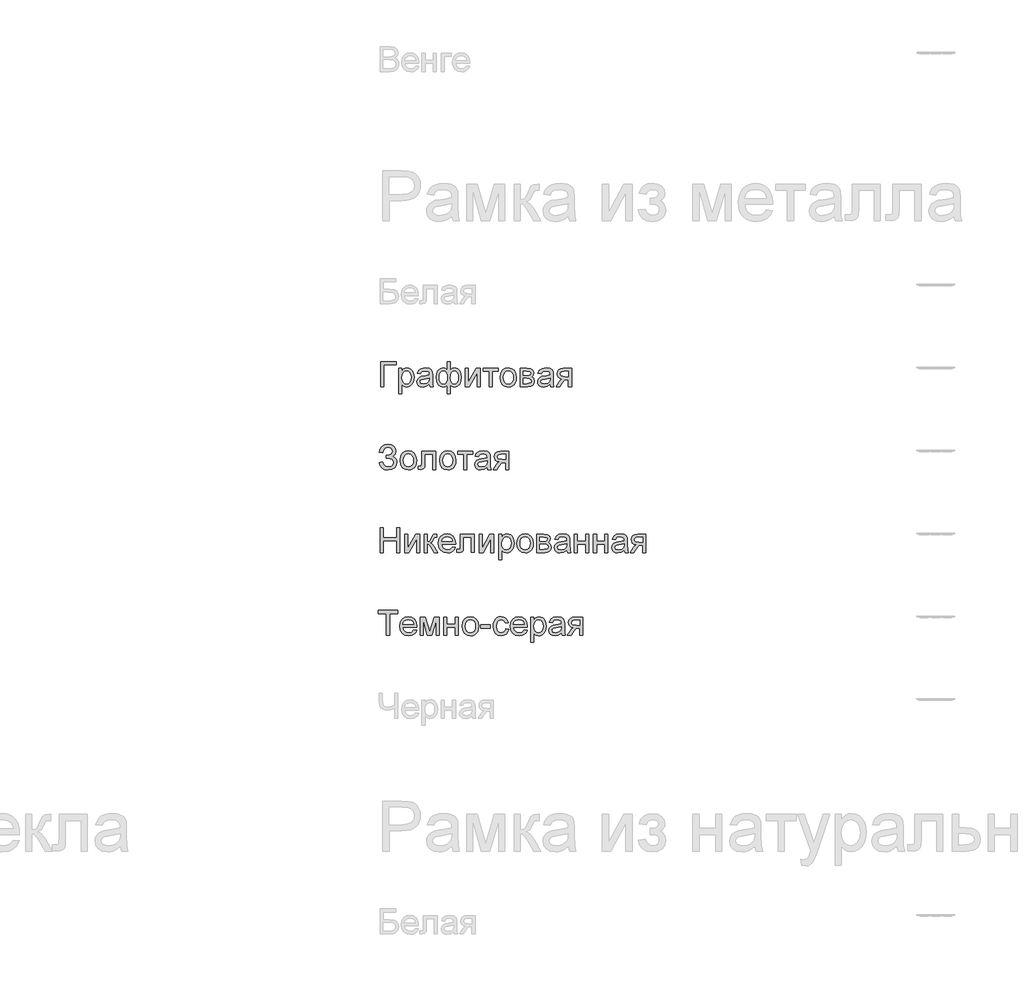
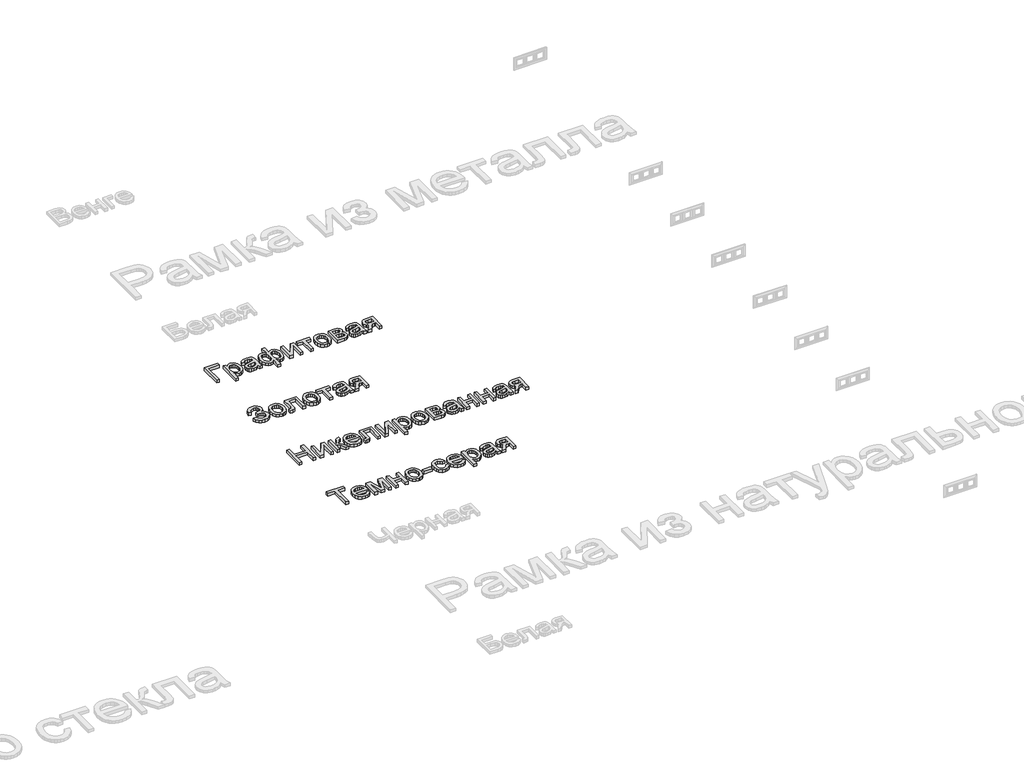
# One storey, part 121 of 168: 4 proxies.
"""IFC4 building model written with IfcOpenShell, lengths in millimetres."""

from ifc_helpers import new_model, si_unit, origin, origin_with_axes, place, context, project, spatial, polyline, outline, extrude, element, save

model = new_model("IFC4")

# Units and contexts
model_context = context("Model", 3, world=origin())
ifc_project = project(units=[si_unit("LENGTHUNIT", "METRE", prefix="MILLI")], contexts=[model_context])

# Site, building, storey
site = spatial("IfcSite", under=ifc_project)
building = spatial("IfcBuilding", under=site)
storey = spatial("IfcBuildingStorey", under=building, Name="Этаж 01", Elevation=0.0)

# Proxies
placement = place(None, origin())
element("IfcBuildingElementProxy", 1, Name="150", ObjectType="150", at=placement, inside=storey, context=model_context, shape_type="SweptSolid", body=[
    extrude(outline(polyline([(47684.967833, -13397.7212163), (47779.1456238, -13397.7212163), (47779.1456238, -13416.5567745), (47703.8033912, -13416.5567745), (47703.8033912, -13548.4056816), (47684.967833, -13548.4056816), (47684.967833, -13397.7212163)])), origin_with_axes(), (0.0, 0.0, 1.0), 20.0),
    extrude(outline(polyline([(47793.2722924, -13590.7856874), (47793.2722924, -13437.7467774), (47812.1078506, -13437.7467774), (47812.1078506, -13456.2144536), (47825.1308732, -13440.5978629), (47842.7156326, -13435.3923327), (47855.4535467, -13437.2133485), (47866.5911741, -13442.6763962), (47875.6594652, -13451.4503817), (47882.1893707, -13463.2042115), (47887.4500832, -13492.2301009), (47885.9647596, -13508.3387338), (47881.508789, -13522.7459124), (47874.2247255, -13534.7204713), (47864.2551234, -13543.5312451), (47852.6438479, -13548.952906), (47840.4347642, -13550.7601263), (47824.0456213, -13545.9224781), (47812.1078506, -13533.6904018), (47812.1078506, -13590.7856874), (47793.2722924, -13590.7856874)]), holes=[polyline([(47812.1078506, -13493.9591463), (47814.1449971, -13510.8449299), (47820.2564368, -13522.6539419), (47829.2741442, -13529.6069116), (47840.030094, -13531.9245682), (47850.9607878, -13529.5241382), (47860.2084214, -13522.3228481), (47866.5129991, -13510.0815747), (47868.614525, -13492.5611947), (47866.5635829, -13475.7673816), (47860.4107565, -13463.7928227), (47851.4068447, -13456.6191238), (47840.8026462, -13454.2278908), (47830.157061, -13456.7708751), (47820.8082598, -13464.399828), (47814.2829529, -13476.8756261), (47812.1078506, -13493.9591463)])]), origin_with_axes(), (0.0, 0.0, 1.0), 20.0),
    extrude(outline(polyline([(47979.2734292, -13534.279013), (47961.0080881, -13547.0445182), (47940.8297607, -13550.7601263), (47925.0890098, -13548.5252432), (47913.4777343, -13541.8205939), (47906.317831, -13531.6394596), (47903.9311966, -13518.975122), (47907.5364401, -13504.0759012), (47917.0094015, -13493.2601705), (47930.197971, -13487.079753), (47946.4951434, -13484.2470616), (47979.1630646, -13477.7723385), (47979.2734292, -13473.5784838), (47977.9766452, -13465.1723802), (47974.0862931, -13459.6725443), (47965.3858839, -13455.5890542), (47953.2641721, -13454.2278908), (47934.2078848, -13457.8515285), (47925.1211995, -13470.7090042), (47906.2856413, -13468.3545594), (47914.4342275, -13449.9604597), (47930.8417645, -13439.1815172), (47955.6921933, -13435.3923327), (47978.5192711, -13438.7400588), (47991.413535, -13447.1461624), (47997.1892823, -13459.9300617), (47998.1089873, -13476.4111751), (47998.1089873, -13499.8452582), (47999.0654805, -13532.5683617), (48002.8178769, -13548.4056816), (47983.9823187, -13548.4056816), (47979.2734292, -13534.279013)]), holes=[polyline([(47979.2734292, -13496.6078966), (47948.8863764, -13502.383644), (47932.6811745, -13505.4370645), (47925.3419287, -13510.4034715), (47922.7667547, -13517.6507468), (47928.3769552, -13527.841078), (47944.8396744, -13531.9245682), (47963.8959618, -13527.4180137), (47976.1832204, -13516.5103126), (47979.1630646, -13501.9421856), (47979.2734292, -13496.6078966)])]), origin_with_axes(), (0.0, 0.0, 1.0), 20.0),
    extrude(outline(polyline([(48087.5778886, -13397.7212163), (48106.4134467, -13397.7212163), (48106.4134467, -13448.3785671), (48118.3880057, -13438.6113001), (48132.4227038, -13435.3923327), (48148.9084157, -13439.4850198), (48161.5773519, -13451.7630814), (48169.6477632, -13470.2491517), (48172.3379003, -13492.9658649), (48169.4408295, -13516.3769554), (48160.7496174, -13534.8124418), (48147.7541859, -13546.7732052), (48131.9444572, -13550.7601263), (48120.4297507, -13548.9207164), (48106.4134467, -13538.8775379), (48106.4134467, -13590.7856874), (48087.5778886, -13590.7856874), (48087.5778886, -13538.8775379), (48075.5481473, -13547.7802822), (48061.3111141, -13550.7601263), (48045.5289765, -13546.9525477), (48031.8805545, -13535.5298117), (48022.4443813, -13517.0161503), (48019.2989903, -13491.9357953), (48022.1454772, -13469.8536785), (48030.684938, -13451.6527168), (48044.0344559, -13439.4574287), (48061.3111141, -13435.3923327), (48075.8976352, -13438.6113001), (48087.5778886, -13448.3785671), (48087.5778886, -13397.7212163)]), holes=[polyline([(48038.1345484, -13491.5311251), (48040.0199436, -13510.0079983), (48045.6761293, -13522.4700009), (48054.1282182, -13529.5609264), (48064.4013229, -13531.9245682), (48074.6238438, -13529.5747219), (48081.8941117, -13522.5251832), (48086.2397178, -13510.775952), (48087.6882532, -13494.3270283), (48086.1661414, -13476.7836556), (48081.5998061, -13464.2526752), (48073.9616562, -13456.7340869), (48063.2241005, -13454.2278908), (48053.1441338, -13456.6743061), (48045.1243063, -13464.0135519), (48039.8819879, -13475.7857757), (48038.1345484, -13491.5311251)]), polyline([(48106.3030821, -13493.4073233), (48107.8711791, -13512.4774062), (48112.5754701, -13524.0702876), (48119.643403, -13529.960998), (48128.3024254, -13531.9245682), (48137.9823204, -13529.5103426), (48146.1263081, -13522.2676658), (48151.6583336, -13509.9390204), (48153.5023421, -13492.2668891), (48151.8008879, -13475.5098642), (48146.6965252, -13463.6456699), (48138.925018, -13456.5823356), (48129.2221304, -13454.2278908), (48119.2295357, -13456.6789046), (48112.0604353, -13464.031946), (48107.7424204, -13476.2778179), (48106.3030821, -13493.4073233)])]), origin_with_axes(), (0.0, 0.0, 1.0), 20.0),
    extrude(outline(polyline([(48195.8823479, -13437.7467774), (48214.7179061, -13437.7467774), (48214.7179061, -13522.1389071), (48260.9974611, -13437.7467774), (48285.3512492, -13437.7467774), (48285.3512492, -13548.4056816), (48266.515691, -13548.4056816), (48266.515691, -13464.5285867), (48220.5304416, -13548.4056816), (48195.8823479, -13548.4056816), (48195.8823479, -13437.7467774)])), origin_with_axes(), (0.0, 0.0, 1.0), 20.0),
    extrude(outline(polyline([(48304.1868073, -13437.7467774), (48393.6557086, -13437.7467774), (48393.6557086, -13456.5823356), (48358.339037, -13456.5823356), (48358.339037, -13548.4056816), (48339.5034789, -13548.4056816), (48339.5034789, -13456.5823356), (48304.1868073, -13456.5823356), (48304.1868073, -13437.7467774)])), origin_with_axes(), (0.0, 0.0, 1.0), 20.0),
    extrude(outline(polyline([(48405.4279324, -13493.0762295), (48409.5022255, -13466.3955878), (48421.7251048, -13447.6428031), (48436.8266607, -13438.4549503), (48454.9080607, -13435.3923327), (48474.6955136, -13439.1217364), (48490.5006438, -13450.3099476), (48500.8611205, -13468.0740494), (48504.3146127, -13491.5311251), (48502.7879024, -13510.5598213), (48498.2077716, -13525.0451749), (48490.7075774, -13535.8930952), (48480.4206771, -13544.0094917), (48468.2023963, -13549.0724677), (48454.9080607, -13550.7601263), (48434.8814846, -13547.0445182), (48419.0947485, -13535.8976937), (48408.8446364, -13517.7611114), (48405.4279324, -13493.0762295)]), holes=[polyline([(48424.2634906, -13493.0394413), (48426.4431914, -13510.0861732), (48432.9822938, -13522.2308776), (48442.8231372, -13529.5011455), (48454.9080607, -13531.9245682), (48466.937802, -13529.48735), (48476.7602513, -13522.1756953), (48483.2993537, -13509.8700426), (48485.4790545, -13492.4508301), (48483.2855582, -13475.9007388), (48476.705069, -13463.9215814), (48466.8688241, -13456.6513134), (48454.9080607, -13454.2278908), (48442.8231372, -13456.6421164), (48432.9822938, -13463.8847932), (48426.4431914, -13476.0019064), (48424.2634906, -13493.0394413)])]), origin_with_axes(), (0.0, 0.0, 1.0), 20.0),
    extrude(outline(polyline([(48525.5046156, -13437.7467774), (48567.0017047, -13437.7467774), (48589.7552061, -13440.2667691), (48602.5574995, -13449.5006072), (48607.9101825, -13465.5954445), (48604.672821, -13478.6736494), (48594.9239481, -13487.999458), (48607.5790887, -13498.2081833), (48612.6190721, -13515.9584896), (48609.4276958, -13530.3150845), (48601.8401296, -13540.4226423), (48589.8287825, -13546.4099217), (48573.3660632, -13548.4056816), (48525.5046156, -13548.4056816), (48525.5046156, -13437.7467774)]), holes=[polyline([(48544.3401738, -13480.1267833), (48562.9550027, -13480.1267833), (48578.314076, -13479.1702901), (48585.7820805, -13475.3443173), (48589.0746244, -13468.4281358), (48587.6306876, -13462.8087383), (48583.2988771, -13459.1942977), (48563.5436139, -13456.5823356), (48544.3401738, -13456.5823356), (48544.3401738, -13480.1267833)]), polyline([(48544.3401738, -13529.5701234), (48567.4431631, -13529.5701234), (48587.9341902, -13526.167215), (48592.1740302, -13521.5273033), (48593.7835139, -13514.4133852), (48590.5645465, -13505.345094), (48582.176837, -13500.0659874), (48565.6037531, -13498.9623414), (48544.3401738, -13498.9623414), (48544.3401738, -13529.5701234)])]), origin_with_axes(), (0.0, 0.0, 1.0), 20.0),
    extrude(outline(polyline([(48706.7968628, -13534.279013), (48688.5315218, -13547.0445182), (48668.3531944, -13550.7601263), (48652.6124435, -13548.5252432), (48641.001168, -13541.8205939), (48633.8412647, -13531.6394596), (48631.4546302, -13518.975122), (48635.0598738, -13504.0759012), (48644.5328352, -13493.2601705), (48657.7214047, -13487.079753), (48674.0185771, -13484.2470616), (48706.6864982, -13477.7723385), (48706.7968628, -13473.5784838), (48705.5000788, -13465.1723802), (48701.6097267, -13459.6725443), (48692.9093175, -13455.5890542), (48680.7876058, -13454.2278908), (48661.7313184, -13457.8515285), (48652.6446332, -13470.7090042), (48633.809075, -13468.3545594), (48641.9576612, -13449.9604597), (48658.3651982, -13439.1815172), (48683.215627, -13435.3923327), (48706.0427048, -13438.7400588), (48718.9369687, -13447.1461624), (48724.712716, -13459.9300617), (48725.632421, -13476.4111751), (48725.632421, -13499.8452582), (48726.5889142, -13532.5683617), (48730.3413105, -13548.4056816), (48711.5057524, -13548.4056816), (48706.7968628, -13534.279013)]), holes=[polyline([(48706.7968628, -13496.6078966), (48676.40981, -13502.383644), (48660.2046082, -13505.4370645), (48652.8653624, -13510.4034715), (48650.2901884, -13517.6507468), (48655.9003888, -13527.841078), (48672.3631081, -13531.9245682), (48691.4193954, -13527.4180137), (48703.7066541, -13516.5103126), (48706.6864982, -13501.9421856), (48706.7968628, -13496.6078966)])]), origin_with_axes(), (0.0, 0.0, 1.0), 20.0),
    extrude(outline(polyline([(48836.2913251, -13437.7467774), (48836.2913251, -13548.4056816), (48817.455767, -13548.4056816), (48817.455767, -13506.0256757), (48807.1918593, -13506.0256757), (48793.2123435, -13508.4169087), (48780.0789563, -13524.4933519), (48765.0693709, -13548.4056816), (48743.2907568, -13548.4056816), (48762.1998913, -13518.1657816), (48770.5508126, -13507.3132627), (48778.2395463, -13502.4940086), (48765.3636765, -13498.5484742), (48756.3137794, -13491.0528785), (48750.9610964, -13481.0832765), (48749.1768687, -13469.7157228), (48751.6140869, -13456.8214589), (48758.9257416, -13446.6127335), (48770.8543153, -13439.9632664), (48787.1422906, -13437.7467774), (48836.2913251, -13437.7467774)]), holes=[polyline([(48817.455767, -13456.5823356), (48792.6237323, -13456.5823356), (48779.7984463, -13457.672186), (48772.5189813, -13460.9417372), (48768.0124268, -13471.1504626), (48769.6724943, -13478.32876), (48774.6526969, -13483.3089625), (48798.1787504, -13487.1901176), (48817.455767, -13487.1901176), (48817.455767, -13456.5823356)])]), origin_with_axes(), (0.0, 0.0, 1.0), 20.0),
])
element("IfcBuildingElementProxy", 2, Name="150", ObjectType="150", at=placement, inside=storey, context=model_context, shape_type="SweptSolid", body=[
    extrude(outline(polyline([(47675.550054, -14006.0256757), (47694.3856121, -14001.3167862), (47705.9555009, -14021.7158428), (47716.8861946, -14029.3723868), (47730.879506, -14031.9245682), (47745.0567584, -14030.0069833), (47755.8770876, -14024.2542286), (47762.7334883, -14015.7883442), (47765.0189552, -14005.7313701), (47762.5219562, -13995.1961495), (47755.030959, -13987.0613589), (47743.2357426, -13981.8604272), (47727.8260855, -13980.1267833), (47717.9300598, -13980.1267833), (47717.9300598, -13961.2912251), (47739.2488214, -13959.7645148), (47752.2902382, -13951.9654165), (47757.9556209, -13937.7099892), (47756.0702257, -13928.8394346), (47750.41404, -13921.2104817), (47741.5388869, -13915.9543677), (47729.9965893, -13914.2023297), (47710.774755, -13919.591801), (47699.7750833, -13933.8840165), (47696.7400569, -13947.1645565), (47677.9044987, -13942.455667), (47683.7561217, -13921.8542752), (47694.358021, -13907.1389954), (47709.7101965, -13898.3098275), (47729.8126483, -13895.3667716), (47749.2046279, -13898.4247907), (47764.1176443, -13907.5988479), (47773.6227954, -13920.8655924), (47776.791179, -13936.201673), (47771.8615603, -13954.8440931), (47757.0727041, -13968.7592296), (47767.5481439, -13973.5830823), (47776.1657796, -13981.7270699), (47781.9323299, -13992.4922168), (47783.8545133, -14005.1795471), (47780.1664963, -14023.0172254), (47769.1024453, -14037.6819214), (47751.9499473, -14047.4905751), (47729.9965893, -14050.7601263), (47710.8943167, -14047.9642232), (47695.4524699, -14039.5765137), (47683.671049, -14025.5969979), (47675.550054, -14006.0256757)])), origin_with_axes(), (0.0, 0.0, 1.0), 20.0),
    extrude(outline(polyline([(47802.6900715, -13993.0762295), (47806.7643646, -13966.3955878), (47818.9872439, -13947.6428031), (47834.0887998, -13938.4549503), (47852.1701999, -13935.3923327), (47871.9576527, -13939.1217364), (47887.7627829, -13950.3099476), (47898.1232596, -13968.0740494), (47901.5767518, -13991.5311251), (47900.0500415, -14010.5598213), (47895.4699107, -14025.0451749), (47887.9697165, -14035.8930952), (47877.6828162, -14044.0094917), (47865.4645355, -14049.0724677), (47852.1701999, -14050.7601263), (47832.1436237, -14047.0445182), (47816.3568876, -14035.8976937), (47806.1067755, -14017.7611114), (47802.6900715, -13993.0762295)]), holes=[polyline([(47821.5256297, -13993.0394413), (47823.7053305, -14010.0861732), (47830.2444329, -14022.2308776), (47840.0852763, -14029.5011455), (47852.1701999, -14031.9245682), (47864.1999411, -14029.48735), (47874.0223904, -14022.1756953), (47880.5614928, -14009.8700426), (47882.7411937, -13992.4508301), (47880.5476973, -13975.9007388), (47873.9672081, -13963.9215814), (47864.1309632, -13956.6513134), (47852.1701999, -13954.2278908), (47840.0852763, -13956.6421164), (47830.2444329, -13963.8847932), (47823.7053305, -13976.0019064), (47821.5256297, -13993.0394413)])]), origin_with_axes(), (0.0, 0.0, 1.0), 20.0),
    extrude(outline(polyline([(47932.1845338, -13937.7467774), (48016.9445455, -13937.7467774), (48016.9445455, -14048.295317), (47998.1089873, -14048.295317), (47998.1089873, -13956.5823356), (47951.020092, -13956.5823356), (47951.020092, -14009.3734019), (47949.7508991, -14033.72719), (47942.7795353, -14044.0094917), (47926.2984219, -14048.4056816), (47910.9945309, -14047.4491884), (47910.9945309, -14029.5701234), (47919.4190286, -14029.5701234), (47927.9354968, -14028.4112951), (47931.3384052, -14024.7324752), (47932.1845338, -14008.3065441), (47932.1845338, -13937.7467774)])), origin_with_axes(), (0.0, 0.0, 1.0), 20.0),
    extrude(outline(polyline([(48040.4889932, -13993.0762295), (48044.5632863, -13966.3955878), (48056.7861656, -13947.6428031), (48071.8877215, -13938.4549503), (48089.9691215, -13935.3923327), (48109.7565743, -13939.1217364), (48125.5617046, -13950.3099476), (48135.9221813, -13968.0740494), (48139.3756735, -13991.5311251), (48137.8489632, -14010.5598213), (48133.2688324, -14025.0451749), (48125.7686382, -14035.8930952), (48115.4817379, -14044.0094917), (48103.2634571, -14049.0724677), (48089.9691215, -14050.7601263), (48069.9425454, -14047.0445182), (48054.1558093, -14035.8976937), (48043.9056972, -14017.7611114), (48040.4889932, -13993.0762295)]), holes=[polyline([(48059.3245513, -13993.0394413), (48061.5042522, -14010.0861732), (48068.0433546, -14022.2308776), (48077.884198, -14029.5011455), (48089.9691215, -14031.9245682), (48101.9988628, -14029.48735), (48111.821312, -14022.1756953), (48118.3604145, -14009.8700426), (48120.5401153, -13992.4508301), (48118.3466189, -13975.9007388), (48111.7661297, -13963.9215814), (48101.9298849, -13956.6513134), (48089.9691215, -13954.2278908), (48077.884198, -13956.6421164), (48068.0433546, -13963.8847932), (48061.5042522, -13976.0019064), (48059.3245513, -13993.0394413)])]), origin_with_axes(), (0.0, 0.0, 1.0), 20.0),
    extrude(outline(polyline([(48151.1478973, -13937.7467774), (48240.6167986, -13937.7467774), (48240.6167986, -13956.5823356), (48205.300127, -13956.5823356), (48205.300127, -14048.4056816), (48186.4645689, -14048.4056816), (48186.4645689, -13956.5823356), (48151.1478973, -13956.5823356), (48151.1478973, -13937.7467774)])), origin_with_axes(), (0.0, 0.0, 1.0), 20.0),
    extrude(outline(polyline([(48327.731255, -14034.279013), (48309.465914, -14047.0445182), (48289.2875865, -14050.7601263), (48273.5468357, -14048.5252432), (48261.9355602, -14041.8205939), (48254.7756568, -14031.6394596), (48252.3890224, -14018.975122), (48255.994266, -14004.0759012), (48265.4672273, -13993.2601705), (48278.6557969, -13987.079753), (48294.9529692, -13984.2470616), (48327.6208904, -13977.7723385), (48327.731255, -13973.5784838), (48326.434471, -13965.1723802), (48322.5441189, -13959.6725443), (48313.8437097, -13955.5890542), (48301.721998, -13954.2278908), (48282.6657106, -13957.8515285), (48273.5790253, -13970.7090042), (48254.7434672, -13968.3545594), (48262.8920534, -13949.9604597), (48279.2995904, -13939.1815172), (48304.1500191, -13935.3923327), (48326.9770969, -13938.7400588), (48339.8713609, -13947.1461624), (48345.6471082, -13959.9300617), (48346.5668132, -13976.4111751), (48346.5668132, -13999.8452582), (48347.5233064, -14032.5683617), (48351.2757027, -14048.4056816), (48332.4401446, -14048.4056816), (48327.731255, -14034.279013)]), holes=[polyline([(48327.731255, -13996.6078966), (48297.3442022, -14002.383644), (48281.1390003, -14005.4370645), (48273.7997545, -14010.4034715), (48271.2245806, -14017.6507468), (48276.834781, -14027.841078), (48293.2975003, -14031.9245682), (48312.3537876, -14027.4180137), (48324.6410463, -14016.5103126), (48327.6208904, -14001.9421856), (48327.731255, -13996.6078966)])]), origin_with_axes(), (0.0, 0.0, 1.0), 20.0),
    extrude(outline(polyline([(48457.2257173, -13937.7467774), (48457.2257173, -14048.4056816), (48438.3901592, -14048.4056816), (48438.3901592, -14006.0256757), (48428.1262515, -14006.0256757), (48414.1467357, -14008.4169087), (48401.0133485, -14024.4933519), (48386.0037631, -14048.4056816), (48364.2251489, -14048.4056816), (48383.1342835, -14018.1657816), (48391.4852048, -14007.3132627), (48399.1739385, -14002.4940086), (48386.2980686, -13998.5484742), (48377.2481716, -13991.0528785), (48371.8954885, -13981.0832765), (48370.1112609, -13969.7157228), (48372.5484791, -13956.8214589), (48379.8601337, -13946.6127335), (48391.7887074, -13939.9632664), (48408.0766828, -13937.7467774), (48457.2257173, -13937.7467774)]), holes=[polyline([(48438.3901592, -13956.5823356), (48413.5581245, -13956.5823356), (48400.7328384, -13957.672186), (48393.4533735, -13960.9417372), (48388.946819, -13971.1504626), (48390.6068865, -13978.32876), (48395.587089, -13983.3089625), (48419.1131426, -13987.1901176), (48438.3901592, -13987.1901176), (48438.3901592, -13956.5823356)])]), origin_with_axes(), (0.0, 0.0, 1.0), 20.0),
])
element("IfcBuildingElementProxy", 3, Name="150", ObjectType="150", at=placement, inside=storey, context=model_context, shape_type="SweptSolid", body=[
    extrude(outline(polyline([(47682.6133883, -14548.4056816), (47682.6133883, -14397.7212163), (47701.4489464, -14397.7212163), (47701.4489464, -14458.9367803), (47781.5000686, -14458.9367803), (47781.5000686, -14397.7212163), (47800.3356267, -14397.7212163), (47800.3356267, -14548.4056816), (47781.5000686, -14548.4056816), (47781.5000686, -14477.7723385), (47701.4489464, -14477.7723385), (47701.4489464, -14548.4056816), (47682.6133883, -14548.4056816)])), origin_with_axes(), (0.0, 0.0, 1.0), 20.0),
    extrude(outline(polyline([(47830.9434087, -14437.7467774), (47849.7789669, -14437.7467774), (47849.7789669, -14522.1389071), (47896.0585219, -14437.7467774), (47920.41231, -14437.7467774), (47920.41231, -14548.4056816), (47901.5767518, -14548.4056816), (47901.5767518, -14464.5285867), (47855.5915024, -14548.4056816), (47830.9434087, -14548.4056816), (47830.9434087, -14437.7467774)])), origin_with_axes(), (0.0, 0.0, 1.0), 20.0),
    extrude(outline(polyline([(47948.6656472, -14437.7467774), (47967.5012053, -14437.7467774), (47967.5012053, -14484.8356728), (47980.1195578, -14481.4511584), (47990.4570418, -14461.7326835), (47999.0470864, -14444.7181412), (48006.6254555, -14439.1815172), (48020.4026362, -14437.7467774), (48024.0078798, -14437.7467774), (48024.0078798, -14456.6927002), (48018.9311083, -14456.5823356), (48009.7340584, -14458.5688983), (48003.2593353, -14470.9665216), (47995.6625721, -14484.3758203), (47985.0123883, -14490.9425139), (47996.8949768, -14498.2725627), (48008.556836, -14513.7144094), (48028.7167693, -14548.4056816), (48007.3060372, -14548.4056816), (47987.5507741, -14514.4501734), (47977.6179602, -14500.0843815), (47967.5012053, -14496.6078966), (47967.5012053, -14548.4056816), (47948.6656472, -14548.4056816), (47948.6656472, -14437.7467774)])), origin_with_axes(), (0.0, 0.0, 1.0), 20.0),
    extrude(outline(polyline([(48117.9649414, -14515.4434548), (48136.4326175, -14517.7978996), (48129.7785519, -14531.713036), (48119.1605579, -14542.1148995), (48104.8177586, -14548.5988196), (48086.9892774, -14550.7601263), (48064.8887665, -14547.0307226), (48047.8834213, -14535.8425114), (48037.0400995, -14517.9220597), (48033.4256589, -14493.9959345), (48037.0768877, -14469.2650674), (48048.0305741, -14450.7698), (48064.8059931, -14439.2366995), (48085.9224196, -14435.3923327), (48106.381257, -14439.2275025), (48122.7290132, -14450.7330118), (48133.4481748, -14469.191491), (48137.0212287, -14493.8855699), (48136.9108641, -14498.9623414), (48052.261217, -14498.9623414), (48055.5215712, -14513.0614189), (48063.0953418, -14523.4264941), (48074.0260356, -14529.8000497), (48087.3571594, -14531.9245682), (48105.8248355, -14527.9882308), (48117.9649414, -14515.4434548)]), holes=[polyline([(48052.261217, -14480.1267833), (48118.1856706, -14480.1267833), (48115.6380877, -14470.1755753), (48110.6440897, -14463.0570587), (48099.6628121, -14456.4351828), (48085.8488432, -14454.2278908), (48073.1523158, -14455.9891259), (48062.6538834, -14461.272831), (48055.3560243, -14469.5087892), (48052.261217, -14480.1267833)])]), origin_with_axes(), (0.0, 0.0, 1.0), 20.0),
    extrude(outline(polyline([(48165.2745659, -14437.7467774), (48250.0345776, -14437.7467774), (48250.0345776, -14548.295317), (48231.1990195, -14548.295317), (48231.1990195, -14456.5823356), (48184.1101241, -14456.5823356), (48184.1101241, -14509.3734019), (48182.8409312, -14533.72719), (48175.8695674, -14544.0094917), (48159.388454, -14548.4056816), (48144.084563, -14547.4491884), (48144.084563, -14529.5701234), (48152.5090607, -14529.5701234), (48161.0255289, -14528.4112951), (48164.4284374, -14524.7324752), (48165.2745659, -14508.3065441), (48165.2745659, -14437.7467774)])), origin_with_axes(), (0.0, 0.0, 1.0), 20.0),
    extrude(outline(polyline([(48278.2879149, -14437.7467774), (48297.123473, -14437.7467774), (48297.123473, -14522.1389071), (48343.403028, -14437.7467774), (48367.7568161, -14437.7467774), (48367.7568161, -14548.4056816), (48348.9212579, -14548.4056816), (48348.9212579, -14464.5285867), (48302.9360085, -14548.4056816), (48278.2879149, -14548.4056816), (48278.2879149, -14437.7467774)])), origin_with_axes(), (0.0, 0.0, 1.0), 20.0),
    extrude(outline(polyline([(48396.0101533, -14590.7856874), (48396.0101533, -14437.7467774), (48414.8457115, -14437.7467774), (48414.8457115, -14456.2144536), (48427.8687341, -14440.5978629), (48445.4534935, -14435.3923327), (48458.1914076, -14437.2133485), (48469.329035, -14442.6763962), (48478.3973261, -14451.4503817), (48484.9272316, -14463.2042115), (48490.1879441, -14492.2301009), (48488.7026205, -14508.3387338), (48484.2466499, -14522.7459124), (48476.9625864, -14534.7204713), (48466.9929843, -14543.5312451), (48455.3817088, -14548.952906), (48443.1726251, -14550.7601263), (48426.7834822, -14545.9224781), (48414.8457115, -14533.6904018), (48414.8457115, -14590.7856874), (48396.0101533, -14590.7856874)]), holes=[polyline([(48414.8457115, -14493.9591463), (48416.882858, -14510.8449299), (48422.9942977, -14522.6539419), (48432.0120051, -14529.6069116), (48442.7679549, -14531.9245682), (48453.6986487, -14529.5241382), (48462.9462823, -14522.3228481), (48469.25086, -14510.0815747), (48471.3523859, -14492.5611947), (48469.3014438, -14475.7673816), (48463.1486174, -14463.7928227), (48454.1447056, -14456.6191238), (48443.5405071, -14454.2278908), (48432.8949219, -14456.7708751), (48423.5461207, -14464.399828), (48417.0208138, -14476.8756261), (48414.8457115, -14493.9591463)])]), origin_with_axes(), (0.0, 0.0, 1.0), 20.0),
    extrude(outline(polyline([(48506.6690575, -14493.0762295), (48510.7433506, -14466.3955878), (48522.9662299, -14447.6428031), (48538.0677858, -14438.4549503), (48556.1491858, -14435.3923327), (48575.9366386, -14439.1217364), (48591.7417689, -14450.3099476), (48602.1022455, -14468.0740494), (48605.5557378, -14491.5311251), (48604.0290275, -14510.5598213), (48599.4488967, -14525.0451749), (48591.9487025, -14535.8930952), (48581.6618022, -14544.0094917), (48569.4435214, -14549.0724677), (48556.1491858, -14550.7601263), (48536.1226097, -14547.0445182), (48520.3358736, -14535.8976937), (48510.0857615, -14517.7611114), (48506.6690575, -14493.0762295)]), holes=[polyline([(48525.5046156, -14493.0394413), (48527.6843164, -14510.0861732), (48534.2234189, -14522.2308776), (48544.0642623, -14529.5011455), (48556.1491858, -14531.9245682), (48568.1789271, -14529.48735), (48578.0013763, -14522.1756953), (48584.5404788, -14509.8700426), (48586.7201796, -14492.4508301), (48584.5266832, -14475.9007388), (48577.946194, -14463.9215814), (48568.1099492, -14456.6513134), (48556.1491858, -14454.2278908), (48544.0642623, -14456.6421164), (48534.2234189, -14463.8847932), (48527.6843164, -14476.0019064), (48525.5046156, -14493.0394413)])]), origin_with_axes(), (0.0, 0.0, 1.0), 20.0),
    extrude(outline(polyline([(48626.7457407, -14437.7467774), (48668.2428298, -14437.7467774), (48690.9963312, -14440.2667691), (48703.7986246, -14449.5006072), (48709.1513076, -14465.5954445), (48705.9139461, -14478.6736494), (48696.1650732, -14487.999458), (48708.8202138, -14498.2081833), (48713.8601972, -14515.9584896), (48710.6688208, -14530.3150845), (48703.0812547, -14540.4226423), (48691.0699076, -14546.4099217), (48674.6071883, -14548.4056816), (48626.7457407, -14548.4056816), (48626.7457407, -14437.7467774)]), holes=[polyline([(48645.5812988, -14480.1267833), (48664.1961278, -14480.1267833), (48679.5552011, -14479.1702901), (48687.0232056, -14475.3443173), (48690.3157495, -14468.4281358), (48688.8718126, -14462.8087383), (48684.5400021, -14459.1942977), (48664.784739, -14456.5823356), (48645.5812988, -14456.5823356), (48645.5812988, -14480.1267833)]), polyline([(48645.5812988, -14529.5701234), (48668.6842881, -14529.5701234), (48689.1753153, -14526.167215), (48693.4151553, -14521.5273033), (48695.024639, -14514.4133852), (48691.8056715, -14505.345094), (48683.4179621, -14500.0659874), (48666.8448782, -14498.9623414), (48645.5812988, -14498.9623414), (48645.5812988, -14529.5701234)])]), origin_with_axes(), (0.0, 0.0, 1.0), 20.0),
    extrude(outline(polyline([(48808.0379879, -14534.279013), (48789.7726469, -14547.0445182), (48769.5943194, -14550.7601263), (48753.8535686, -14548.5252432), (48742.2422931, -14541.8205939), (48735.0823898, -14531.6394596), (48732.6957553, -14518.975122), (48736.3009989, -14504.0759012), (48745.7739602, -14493.2601705), (48758.9625298, -14487.079753), (48775.2597021, -14484.2470616), (48807.9276233, -14477.7723385), (48808.0379879, -14473.5784838), (48806.7412039, -14465.1723802), (48802.8508518, -14459.6725443), (48794.1504426, -14455.5890542), (48782.0287309, -14454.2278908), (48762.9724435, -14457.8515285), (48753.8857582, -14470.7090042), (48735.0502001, -14468.3545594), (48743.1987863, -14449.9604597), (48759.6063233, -14439.1815172), (48784.456752, -14435.3923327), (48807.2838298, -14438.7400588), (48820.1780938, -14447.1461624), (48825.9538411, -14459.9300617), (48826.8735461, -14476.4111751), (48826.8735461, -14499.8452582), (48827.8300393, -14532.5683617), (48831.5824356, -14548.4056816), (48812.7468775, -14548.4056816), (48808.0379879, -14534.279013)]), holes=[polyline([(48808.0379879, -14496.6078966), (48777.6509351, -14502.383644), (48761.4457332, -14505.4370645), (48754.1064874, -14510.4034715), (48751.5313135, -14517.6507468), (48757.1415139, -14527.841078), (48773.6042332, -14531.9245682), (48792.6605205, -14527.4180137), (48804.9477792, -14516.5103126), (48807.9276233, -14501.9421856), (48808.0379879, -14496.6078966)])]), origin_with_axes(), (0.0, 0.0, 1.0), 20.0),
    extrude(outline(polyline([(48852.7724385, -14437.7467774), (48871.6079967, -14437.7467774), (48871.6079967, -14480.1267833), (48921.0513368, -14480.1267833), (48921.0513368, -14437.7467774), (48939.886895, -14437.7467774), (48939.886895, -14548.4056816), (48921.0513368, -14548.4056816), (48921.0513368, -14498.9623414), (48871.6079967, -14498.9623414), (48871.6079967, -14548.4056816), (48852.7724385, -14548.4056816), (48852.7724385, -14437.7467774)])), origin_with_axes(), (0.0, 0.0, 1.0), 20.0),
    extrude(outline(polyline([(48968.1402322, -14437.7467774), (48986.9757904, -14437.7467774), (48986.9757904, -14480.1267833), (49036.4191305, -14480.1267833), (49036.4191305, -14437.7467774), (49055.2546887, -14437.7467774), (49055.2546887, -14548.4056816), (49036.4191305, -14548.4056816), (49036.4191305, -14498.9623414), (48986.9757904, -14498.9623414), (48986.9757904, -14548.4056816), (48968.1402322, -14548.4056816), (48968.1402322, -14437.7467774)])), origin_with_axes(), (0.0, 0.0, 1.0), 20.0),
    extrude(outline(polyline([(49154.141369, -14534.279013), (49135.8760279, -14547.0445182), (49115.6977005, -14550.7601263), (49099.9569496, -14548.5252432), (49088.3456741, -14541.8205939), (49081.1857708, -14531.6394596), (49078.7991364, -14518.975122), (49082.4043799, -14504.0759012), (49091.8773413, -14493.2601705), (49105.0659108, -14487.079753), (49121.3630832, -14484.2470616), (49154.0310044, -14477.7723385), (49154.141369, -14473.5784838), (49152.8445849, -14465.1723802), (49148.9542328, -14459.6725443), (49140.2538237, -14455.5890542), (49128.1321119, -14454.2278908), (49109.0758246, -14457.8515285), (49099.9891393, -14470.7090042), (49081.1535811, -14468.3545594), (49089.3021673, -14449.9604597), (49105.7097043, -14439.1815172), (49130.5601331, -14435.3923327), (49153.3872109, -14438.7400588), (49166.2814748, -14447.1461624), (49172.0572221, -14459.9300617), (49172.9769271, -14476.4111751), (49172.9769271, -14499.8452582), (49173.9334203, -14532.5683617), (49177.6858167, -14548.4056816), (49158.8502585, -14548.4056816), (49154.141369, -14534.279013)]), holes=[polyline([(49154.141369, -14496.6078966), (49123.7543162, -14502.383644), (49107.5491143, -14505.4370645), (49100.2098685, -14510.4034715), (49097.6346945, -14517.6507468), (49103.2448949, -14527.841078), (49119.7076142, -14531.9245682), (49138.7639016, -14527.4180137), (49151.0511602, -14516.5103126), (49154.0310044, -14501.9421856), (49154.141369, -14496.6078966)])]), origin_with_axes(), (0.0, 0.0, 1.0), 20.0),
    extrude(outline(polyline([(49283.6358313, -14437.7467774), (49283.6358313, -14548.4056816), (49264.8002731, -14548.4056816), (49264.8002731, -14506.0256757), (49254.5363655, -14506.0256757), (49240.5568496, -14508.4169087), (49227.4234624, -14524.4933519), (49212.413877, -14548.4056816), (49190.6352629, -14548.4056816), (49209.5443975, -14518.1657816), (49217.8953187, -14507.3132627), (49225.5840524, -14502.4940086), (49212.7081826, -14498.5484742), (49203.6582855, -14491.0528785), (49198.3056025, -14481.0832765), (49196.5213748, -14469.7157228), (49198.958593, -14456.8214589), (49206.2702477, -14446.6127335), (49218.1988214, -14439.9632664), (49234.4867967, -14437.7467774), (49283.6358313, -14437.7467774)]), holes=[polyline([(49264.8002731, -14456.5823356), (49239.9682385, -14456.5823356), (49227.1429524, -14457.672186), (49219.8634874, -14460.9417372), (49215.356933, -14471.1504626), (49217.0170005, -14478.32876), (49221.997203, -14483.3089625), (49245.5232566, -14487.1901176), (49264.8002731, -14487.1901176), (49264.8002731, -14456.5823356)])]), origin_with_axes(), (0.0, 0.0, 1.0), 20.0),
])
element("IfcBuildingElementProxy", 4, Name="150", ObjectType="150", at=placement, inside=storey, context=model_context, shape_type="SweptSolid", body=[
    extrude(outline(polyline([(47720.2845046, -15048.4056816), (47720.2845046, -14916.5567745), (47670.8411644, -14916.5567745), (47670.8411644, -14897.7212163), (47788.5634029, -14897.7212163), (47788.5634029, -14916.5567745), (47739.1200627, -14916.5567745), (47739.1200627, -15048.4056816), (47720.2845046, -15048.4056816)])), origin_with_axes(), (0.0, 0.0, 1.0), 20.0),
    extrude(outline(polyline([(47884.8749092, -15015.4434548), (47903.3425854, -15017.7978996), (47896.6885198, -15031.713036), (47886.0705257, -15042.1148995), (47871.7277264, -15048.5988196), (47853.8992452, -15050.7601263), (47831.7987344, -15047.0307226), (47814.7933891, -15035.8425114), (47803.9500673, -15017.9220597), (47800.3356267, -14993.9959345), (47803.9868555, -14969.2650674), (47814.9405419, -14950.7698), (47831.7159609, -14939.2366995), (47852.8323874, -14935.3923327), (47873.2912249, -14939.2275025), (47889.6389811, -14950.7330118), (47900.3581427, -14969.191491), (47903.9311966, -14993.8855699), (47903.820832, -14998.9623414), (47819.1711849, -14998.9623414), (47822.4315391, -15013.0614189), (47830.0053096, -15023.4264941), (47840.9360034, -15029.8000497), (47854.2671272, -15031.9245682), (47872.7348034, -15027.9882308), (47884.8749092, -15015.4434548)]), holes=[polyline([(47819.1711849, -14980.1267833), (47885.0956384, -14980.1267833), (47882.5480556, -14970.1755753), (47877.5540575, -14963.0570587), (47866.57278, -14956.4351828), (47852.758811, -14954.2278908), (47840.0622837, -14955.9891259), (47829.5638512, -14961.272831), (47822.2659922, -14969.5087892), (47819.1711849, -14980.1267833)])]), origin_with_axes(), (0.0, 0.0, 1.0), 20.0),
    extrude(outline(polyline([(47922.7667547, -14937.7467774), (47955.1771585, -14937.7467774), (47980.156346, -15026.3327619), (48007.085308, -14937.7467774), (48038.1345484, -14937.7467774), (48038.1345484, -15048.4056816), (48019.2989903, -15048.4056816), (48019.2989903, -14959.3046623), (47992.2228754, -15048.4056816), (47967.5012053, -15048.4056816), (47941.6023129, -14955.0372312), (47941.6023129, -15048.4056816), (47922.7667547, -15048.4056816), (47922.7667547, -14937.7467774)])), origin_with_axes(), (0.0, 0.0, 1.0), 20.0),
    extrude(outline(polyline([(48066.3878856, -14937.7467774), (48085.2234438, -14937.7467774), (48085.2234438, -14980.1267833), (48134.6667839, -14980.1267833), (48134.6667839, -14937.7467774), (48153.5023421, -14937.7467774), (48153.5023421, -15048.4056816), (48134.6667839, -15048.4056816), (48134.6667839, -14998.9623414), (48085.2234438, -14998.9623414), (48085.2234438, -15048.4056816), (48066.3878856, -15048.4056816), (48066.3878856, -14937.7467774)])), origin_with_axes(), (0.0, 0.0, 1.0), 20.0),
    extrude(outline(polyline([(48177.0467898, -14993.0762295), (48181.1210829, -14966.3955878), (48193.3439622, -14947.6428031), (48208.4455181, -14938.4549503), (48226.5269181, -14935.3923327), (48246.314371, -14939.1217364), (48262.1195012, -14950.3099476), (48272.4799779, -14968.0740494), (48275.9334701, -14991.5311251), (48274.4067598, -15010.5598213), (48269.826629, -15025.0451749), (48262.3264348, -15035.8930952), (48252.0395345, -15044.0094917), (48239.8212537, -15049.0724677), (48226.5269181, -15050.7601263), (48206.500342, -15047.0445182), (48190.7136059, -15035.8976937), (48180.4634938, -15017.7611114), (48177.0467898, -14993.0762295)]), holes=[polyline([(48195.8823479, -14993.0394413), (48198.0620488, -15010.0861732), (48204.6011512, -15022.2308776), (48214.4419946, -15029.5011455), (48226.5269181, -15031.9245682), (48238.5566594, -15029.48735), (48248.3791087, -15022.1756953), (48254.9182111, -15009.8700426), (48257.0979119, -14992.4508301), (48254.9044155, -14975.9007388), (48248.3239264, -14963.9215814), (48238.4876815, -14956.6513134), (48226.5269181, -14954.2278908), (48214.4419946, -14956.6421164), (48204.6011512, -14963.8847932), (48198.0620488, -14976.0019064), (48195.8823479, -14993.0394413)])]), origin_with_axes(), (0.0, 0.0, 1.0), 20.0),
    extrude(outline(polyline([(48287.7056939, -15003.671231), (48287.7056939, -14984.8356728), (48346.5668132, -14984.8356728), (48346.5668132, -15003.671231), (48287.7056939, -15003.671231)])), origin_with_axes(), (0.0, 0.0, 1.0), 20.0),
    extrude(outline(polyline([(48438.3901592, -15008.3801205), (48457.2257173, -15010.7345653), (48451.9742018, -15027.4869916), (48442.1057673, -15040.1467308), (48428.5493158, -15048.1067774), (48412.2337493, -15050.7601263), (48392.1979761, -15047.0583138), (48376.5308017, -15035.952876), (48366.4186453, -15017.9312568), (48363.0479266, -14993.4808997), (48364.4872649, -14976.7192763), (48368.8052798, -14962.192536), (48376.0709492, -14950.4616989), (48386.3532509, -14942.087785), (48398.6543052, -14937.0661957), (48411.9762319, -14935.3923327), (48427.8917267, -14937.6915951), (48440.6158452, -14944.5893825), (48449.7439172, -14955.7178129), (48454.8712725, -14970.7090042), (48436.0357144, -14973.063449), (48427.298517, -14958.9551744), (48412.1233847, -14954.2278908), (48399.9510892, -14956.5547444), (48390.2895883, -14963.5353053), (48383.9850106, -14975.5466524), (48381.8834847, -14992.9658649), (48383.9390254, -15010.6196021), (48390.1056473, -15022.672336), (48399.5924042, -15029.6115101), (48411.6083499, -15031.9245682), (48421.3618213, -15030.4806314), (48429.3586562, -15026.1488209), (48435.1757902, -15018.8187721), (48438.3901592, -15008.3801205)])), origin_with_axes(), (0.0, 0.0, 1.0), 20.0),
    extrude(outline(polyline([(48551.1827789, -15015.4434548), (48569.650455, -15017.7978996), (48562.9963895, -15031.713036), (48552.3783954, -15042.1148995), (48538.0355961, -15048.5988196), (48520.2071149, -15050.7601263), (48498.106604, -15047.0307226), (48481.1012588, -15035.8425114), (48470.257937, -15017.9220597), (48466.6434964, -14993.9959345), (48470.2947252, -14969.2650674), (48481.2484116, -14950.7698), (48498.0238306, -14939.2366995), (48519.1402571, -14935.3923327), (48539.5990946, -14939.2275025), (48555.9468507, -14950.7330118), (48566.6660124, -14969.191491), (48570.2390662, -14993.8855699), (48570.1287016, -14998.9623414), (48485.4790545, -14998.9623414), (48488.7394087, -15013.0614189), (48496.3131793, -15023.4264941), (48507.2438731, -15029.8000497), (48520.5749969, -15031.9245682), (48539.042673, -15027.9882308), (48551.1827789, -15015.4434548)]), holes=[polyline([(48485.4790545, -14980.1267833), (48551.4035081, -14980.1267833), (48548.8559253, -14970.1755753), (48543.8619272, -14963.0570587), (48532.8806496, -14956.4351828), (48519.0666807, -14954.2278908), (48506.3701533, -14955.9891259), (48495.8717209, -14961.272831), (48488.5738618, -14969.5087892), (48485.4790545, -14980.1267833)])]), origin_with_axes(), (0.0, 0.0, 1.0), 20.0),
    extrude(outline(polyline([(48589.0746244, -15090.7856874), (48589.0746244, -14937.7467774), (48607.9101825, -14937.7467774), (48607.9101825, -14956.2144536), (48620.9332052, -14940.5978629), (48638.5179645, -14935.3923327), (48651.2558786, -14937.2133485), (48662.393506, -14942.6763962), (48671.4617972, -14951.4503817), (48677.9917026, -14963.2042115), (48683.2524152, -14992.2301009), (48681.7670916, -15008.3387338), (48677.3111209, -15022.7459124), (48670.0270574, -15034.7204713), (48660.0574554, -15043.5312451), (48648.4461799, -15048.952906), (48636.2370962, -15050.7601263), (48619.8479533, -15045.9224781), (48607.9101825, -15033.6904018), (48607.9101825, -15090.7856874), (48589.0746244, -15090.7856874)]), holes=[polyline([(48607.9101825, -14993.9591463), (48609.9473291, -15010.8449299), (48616.0587687, -15022.6539419), (48625.0764761, -15029.6069116), (48635.832426, -15031.9245682), (48646.7631198, -15029.5241382), (48656.0107534, -15022.3228481), (48662.3153311, -15010.0815747), (48664.416857, -14992.5611947), (48662.3659149, -14975.7673816), (48656.2130885, -14963.7928227), (48647.2091767, -14956.6191238), (48636.6049782, -14954.2278908), (48625.9593929, -14956.7708751), (48616.6105917, -14964.399828), (48610.0852848, -14976.8756261), (48607.9101825, -14993.9591463)])]), origin_with_axes(), (0.0, 0.0, 1.0), 20.0),
    extrude(outline(polyline([(48775.0757612, -15034.279013), (48756.8104201, -15047.0445182), (48736.6320927, -15050.7601263), (48720.8913418, -15048.5252432), (48709.2800663, -15041.8205939), (48702.120163, -15031.6394596), (48699.7335285, -15018.975122), (48703.3387721, -15004.0759012), (48712.8117335, -14993.2601705), (48726.000303, -14987.079753), (48742.2974754, -14984.2470616), (48774.9653966, -14977.7723385), (48775.0757612, -14973.5784838), (48773.7789771, -14965.1723802), (48769.888625, -14959.6725443), (48761.1882158, -14955.5890542), (48749.0665041, -14954.2278908), (48730.0102167, -14957.8515285), (48720.9235315, -14970.7090042), (48702.0879733, -14968.3545594), (48710.2365595, -14949.9604597), (48726.6440965, -14939.1815172), (48751.4945253, -14935.3923327), (48774.3216031, -14938.7400588), (48787.215867, -14947.1461624), (48792.9916143, -14959.9300617), (48793.9113193, -14976.4111751), (48793.9113193, -14999.8452582), (48794.8678125, -15032.5683617), (48798.6202088, -15048.4056816), (48779.7846507, -15048.4056816), (48775.0757612, -15034.279013)]), holes=[polyline([(48775.0757612, -14996.6078966), (48744.6887083, -15002.383644), (48728.4835065, -15005.4370645), (48721.1442607, -15010.4034715), (48718.5690867, -15017.6507468), (48724.1792871, -15027.841078), (48740.6420064, -15031.9245682), (48759.6982938, -15027.4180137), (48771.9855524, -15016.5103126), (48774.9653966, -15001.9421856), (48775.0757612, -14996.6078966)])]), origin_with_axes(), (0.0, 0.0, 1.0), 20.0),
    extrude(outline(polyline([(48904.5702235, -14937.7467774), (48904.5702235, -15048.4056816), (48885.7346653, -15048.4056816), (48885.7346653, -15006.0256757), (48875.4707576, -15006.0256757), (48861.4912418, -15008.4169087), (48848.3578546, -15024.4933519), (48833.3482692, -15048.4056816), (48811.5696551, -15048.4056816), (48830.4787896, -15018.1657816), (48838.8297109, -15007.3132627), (48846.5184446, -15002.4940086), (48833.6425748, -14998.5484742), (48824.5926777, -14991.0528785), (48819.2399947, -14981.0832765), (48817.455767, -14969.7157228), (48819.8929852, -14956.8214589), (48827.2046399, -14946.6127335), (48839.1332136, -14939.9632664), (48855.4211889, -14937.7467774), (48904.5702235, -14937.7467774)]), holes=[polyline([(48885.7346653, -14956.5823356), (48860.9026306, -14956.5823356), (48848.0773446, -14957.672186), (48840.7978796, -14960.9417372), (48836.2913251, -14971.1504626), (48837.9513927, -14978.32876), (48842.9315952, -14983.3089625), (48866.4576488, -14987.1901176), (48885.7346653, -14987.1901176), (48885.7346653, -14956.5823356)])]), origin_with_axes(), (0.0, 0.0, 1.0), 20.0),
])

save(model, "model.ifc")
